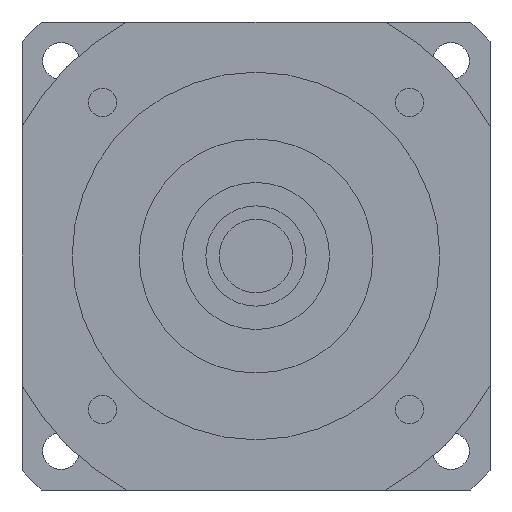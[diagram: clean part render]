
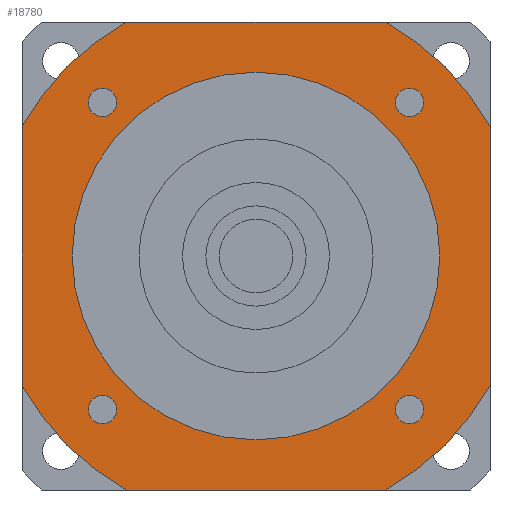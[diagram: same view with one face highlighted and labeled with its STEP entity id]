
A CAD part, left-side view. The second image highlights one B-rep face of the part: STEP entity #18780.
In plain terms, the highlighted planar face has unit normal (-1, 0, 0) as drawn and (0, 0, -1) by its records, which use the part's own axes.
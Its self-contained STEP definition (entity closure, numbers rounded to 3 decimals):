
#15970=CARTESIAN_POINT('',(-38.73,-70.,-59.7));
#15980=VERTEX_POINT('',#15970);
#16010=CARTESIAN_POINT('',(0.,0.,
-59.7));
#16020=DIRECTION('',(0.,0.,-1.));
#16030=DIRECTION('',(1.,0.,0.));
#16040=AXIS2_PLACEMENT_3D('',#16010,#16020,#16030);
#16050=CIRCLE('',#16040,80.);
#16060=CARTESIAN_POINT('',(-70.,-38.73,-59.7));
#16070=VERTEX_POINT('',#16060);
#16080=EDGE_CURVE('',#15980,#16070,#16050,.T.);
#16260=CARTESIAN_POINT('',(-70.,-70.,-59.7));
#16270=DIRECTION('',(0.,1.,0.));
#16280=VECTOR('',#16270,1000.);
#16290=LINE('',#16260,#16280);
#16300=CARTESIAN_POINT('',(-70.,38.73,-59.7));
#16310=VERTEX_POINT('',#16300);
#16320=EDGE_CURVE('',#16070,#16310,#16290,.T.);
#16530=CARTESIAN_POINT('',(70.,-38.73,-59.7));
#16540=VERTEX_POINT('',#16530);
#16570=CARTESIAN_POINT('',(0.,0.,
-59.7));
#16580=DIRECTION('',(0.,0.,-1.));
#16590=DIRECTION('',(1.,0.,0.));
#16600=AXIS2_PLACEMENT_3D('',#16570,#16580,#16590);
#16610=CIRCLE('',#16600,80.);
#16620=CARTESIAN_POINT('',(38.73,-70.,-59.7));
#16630=VERTEX_POINT('',#16620);
#16640=EDGE_CURVE('',#16540,#16630,#16610,.T.);
#16820=CARTESIAN_POINT('',(70.,-70.,-59.7));
#16830=DIRECTION('',(-1.,0.,0.));
#16840=VECTOR('',#16830,1000.);
#16850=LINE('',#16820,#16840);
#16860=EDGE_CURVE('',#16630,#15980,#16850,.T.);
#17020=CARTESIAN_POINT('',(-38.73,70.,-59.7));
#17030=VERTEX_POINT('',#17020);
#17060=CARTESIAN_POINT('',(-70.,70.,-59.7));
#17070=DIRECTION('',(1.,0.,0.));
#17080=VECTOR('',#17070,1000.);
#17090=LINE('',#17060,#17080);
#17100=CARTESIAN_POINT('',(38.73,70.,-59.7));
#17110=VERTEX_POINT('',#17100);
#17120=EDGE_CURVE('',#17030,#17110,#17090,.T.);
#17320=CARTESIAN_POINT('',(0.,0.,
-59.7));
#17330=DIRECTION('',(0.,0.,-1.));
#17340=DIRECTION('',(1.,0.,0.));
#17350=AXIS2_PLACEMENT_3D('',#17320,#17330,#17340);
#17360=CIRCLE('',#17350,80.);
#17370=EDGE_CURVE('',#16310,#17030,#17360,.T.);
#17480=CARTESIAN_POINT('',(0.,0.,
-59.7));
#17490=DIRECTION('',(0.,0.,-1.));
#17500=DIRECTION('',(1.,0.,0.));
#17510=AXIS2_PLACEMENT_3D('',#17480,#17490,#17500);
#17520=CIRCLE('',#17510,80.);
#17530=CARTESIAN_POINT('',(70.,38.73,-59.7));
#17540=VERTEX_POINT('',#17530);
#17550=EDGE_CURVE('',#17110,#17540,#17520,.T.);
#17730=CARTESIAN_POINT('',(70.,70.,-59.7));
#17740=DIRECTION('',(0.,-1.,0.));
#17750=VECTOR('',#17740,1000.);
#17760=LINE('',#17730,#17750);
#17770=EDGE_CURVE('',#17540,#16540,#17760,.T.);
#17840=CARTESIAN_POINT('',(70.,70.,-59.7));
#17850=DIRECTION('',(0.,0.,-1.));
#17860=DIRECTION('',(1.,0.,0.));
#17870=AXIS2_PLACEMENT_3D('',#17840,#17850,#17860);
#17880=PLANE('',#17870);
#17890=CARTESIAN_POINT('',(-45.962,-45.962,-59.7));
#17900=DIRECTION('',(0.,0.,-1.));
#17910=DIRECTION('',(0.,-1.,0.));
#17920=AXIS2_PLACEMENT_3D('',#17890,#17900,#17910);
#17930=CIRCLE('',#17920,4.25);
#17940=CARTESIAN_POINT('',(-45.962,-50.212,-59.7));
#17950=VERTEX_POINT('',#17940);
#17960=CARTESIAN_POINT('',(-45.962,-41.712,-59.7));
#17970=VERTEX_POINT('',#17960);
#17980=EDGE_CURVE('',#17950,#17970,#17930,.T.);
#17990=ORIENTED_EDGE('',*,*,#17980,.F.);
#18000=EDGE_CURVE('',#17970,#17950,#17930,.T.);
#18010=ORIENTED_EDGE('',*,*,#18000,.F.);
#18020=EDGE_LOOP('',(#18010,#17990));
#18030=FACE_BOUND('',#18020,.T.);
#18040=CARTESIAN_POINT('',(-45.962,45.962,-59.7));
#18050=DIRECTION('',(0.,0.,-1.));
#18060=DIRECTION('',(-1.,0.,0.));
#18070=AXIS2_PLACEMENT_3D('',#18040,#18050,#18060);
#18080=CIRCLE('',#18070,4.25);
#18090=CARTESIAN_POINT('',(-50.212,45.962,-59.7));
#18100=VERTEX_POINT('',#18090);
#18110=CARTESIAN_POINT('',(-41.712,45.962,-59.7));
#18120=VERTEX_POINT('',#18110);
#18130=EDGE_CURVE('',#18100,#18120,#18080,.T.);
#18140=ORIENTED_EDGE('',*,*,#18130,.F.);
#18150=EDGE_CURVE('',#18120,#18100,#18080,.T.);
#18160=ORIENTED_EDGE('',*,*,#18150,.F.);
#18170=EDGE_LOOP('',(#18160,#18140));
#18180=FACE_BOUND('',#18170,.T.);
#18190=CARTESIAN_POINT('',(45.962,45.962,-59.7));
#18200=DIRECTION('',(0.,0.,-1.));
#18210=DIRECTION('',(0.,1.,0.));
#18220=AXIS2_PLACEMENT_3D('',#18190,#18200,#18210);
#18230=CIRCLE('',#18220,4.25);
#18240=CARTESIAN_POINT('',(45.962,50.212,-59.7));
#18250=VERTEX_POINT('',#18240);
#18260=CARTESIAN_POINT('',(45.962,41.712,-59.7));
#18270=VERTEX_POINT('',#18260);
#18280=EDGE_CURVE('',#18250,#18270,#18230,.T.);
#18290=ORIENTED_EDGE('',*,*,#18280,.F.);
#18300=EDGE_CURVE('',#18270,#18250,#18230,.T.);
#18310=ORIENTED_EDGE('',*,*,#18300,.F.);
#18320=EDGE_LOOP('',(#18310,#18290));
#18330=FACE_BOUND('',#18320,.T.);
#18340=CARTESIAN_POINT('',(0.,0.,
-59.7));
#18350=DIRECTION('',(0.,0.,1.));
#18360=DIRECTION('',(0.,1.,0.));
#18370=AXIS2_PLACEMENT_3D('',#18340,#18350,#18360);
#18380=CIRCLE('',#18370,55.);
#18390=CARTESIAN_POINT('',(-55.,0.,-59.7));
#18400=VERTEX_POINT('',#18390);
#18410=CARTESIAN_POINT('',(55.,0.,-59.7));
#18420=VERTEX_POINT('',#18410);
#18430=EDGE_CURVE('',#18400,#18420,#18380,.T.);
#18440=ORIENTED_EDGE('',*,*,#18430,.T.);
#18450=CARTESIAN_POINT('',(0.,55.,-59.7));
#18460=VERTEX_POINT('',#18450);
#18470=EDGE_CURVE('',#18460,#18400,#18380,.T.);
#18480=ORIENTED_EDGE('',*,*,#18470,.T.);
#18490=EDGE_CURVE('',#18420,#18460,#18380,.T.);
#18500=ORIENTED_EDGE('',*,*,#18490,.T.);
#18510=EDGE_LOOP('',(#18500,#18480,#18440));
#18520=FACE_BOUND('',#18510,.T.);
#18530=ORIENTED_EDGE('',*,*,#17120,.T.);
#18540=ORIENTED_EDGE('',*,*,#17370,.T.);
#18550=ORIENTED_EDGE('',*,*,#16320,.T.);
#18560=ORIENTED_EDGE('',*,*,#16080,.T.);
#18570=ORIENTED_EDGE('',*,*,#16860,.T.);
#18580=ORIENTED_EDGE('',*,*,#16640,.T.);
#18590=ORIENTED_EDGE('',*,*,#17770,.T.);
#18600=ORIENTED_EDGE('',*,*,#17550,.T.);
#18610=EDGE_LOOP('',(#18600,#18590,#18580,#18570,#18560,#18550,#18540,
#18530));
#18620=FACE_OUTER_BOUND('',#18610,.T.);
#18630=CARTESIAN_POINT('',(45.962,-45.962,-59.7));
#18640=DIRECTION('',(0.,0.,-1.));
#18650=DIRECTION('',(1.,0.,0.));
#18660=AXIS2_PLACEMENT_3D('',#18630,#18640,#18650);
#18670=CIRCLE('',#18660,4.25);
#18680=CARTESIAN_POINT('',(50.212,-45.962,-59.7));
#18690=VERTEX_POINT('',#18680);
#18700=CARTESIAN_POINT('',(41.712,-45.962,-59.7));
#18710=VERTEX_POINT('',#18700);
#18720=EDGE_CURVE('',#18690,#18710,#18670,.T.);
#18730=ORIENTED_EDGE('',*,*,#18720,.F.);
#18740=EDGE_CURVE('',#18710,#18690,#18670,.T.);
#18750=ORIENTED_EDGE('',*,*,#18740,.F.);
#18760=EDGE_LOOP('',(#18750,#18730));
#18770=FACE_BOUND('',#18760,.T.);
#18780=ADVANCED_FACE('',(#18030,#18180,#18330,#18520,#18620,#18770),
#17880,.T.);
